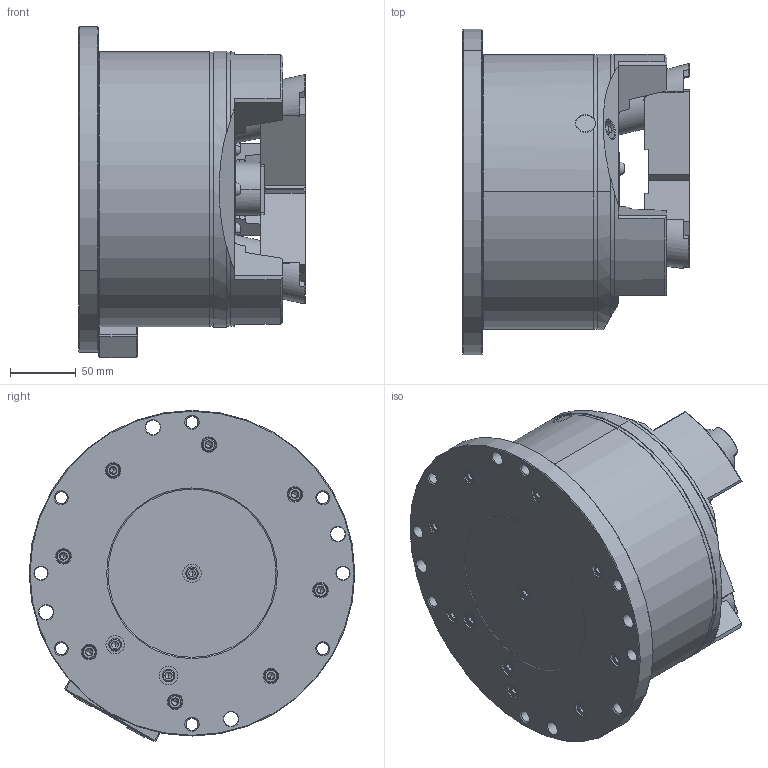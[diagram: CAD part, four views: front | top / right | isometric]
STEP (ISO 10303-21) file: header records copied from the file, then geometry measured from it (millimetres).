
FILE_DESCRIPTION (( 'STEP AP214' ), '1' );
FILE_NAME ('PLS08_UC.STEP', '2020-06-25T23:37:55', ( '' ), ( '' ), 'SwSTEP 2.0', 'SolidWorks 2017', '' );
FILE_SCHEMA (( 'AUTOMOTIVE_DESIGN' ));
Length unit declared in the file: millimetre
Products named in the file (4): 結合; 0030112030; 61P367087; PLS08_UC
Assembly tree (7 placements, depth 2):
  PLS08_UC
    61P367087  x3
    0030112030  x3
    結合
Bounding box: 172.5 x 248 x 252.19 mm (x, y, z)
Volume: 4672128.9 mm3; surface area: 290854.9 mm2
Topology: 7 solids, 18 shells, 1475 faces, 3615 edges, 2238 vertices
Faces by surface type: plane 655, cone 359, cylinder 255, bspline 173, torus 33
Entity records: 50826 total; most frequent: CARTESIAN_POINT 19898, ORIENTED_EDGE 6642, DIRECTION 5862, EDGE_CURVE 3321, VERTEX_POINT 2092, AXIS2_PLACEMENT_3D 2072, LINE 1718, VECTOR 1718
